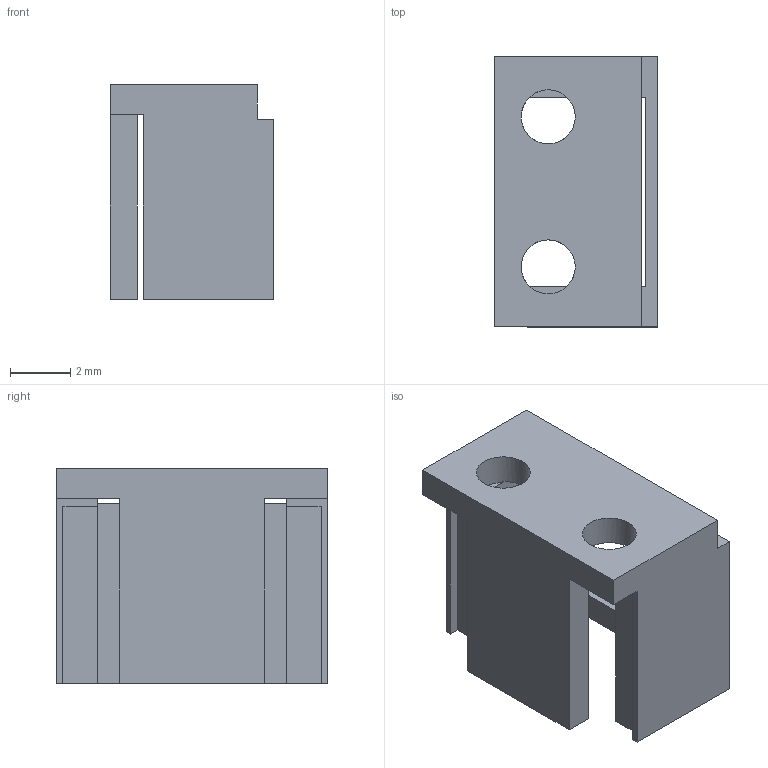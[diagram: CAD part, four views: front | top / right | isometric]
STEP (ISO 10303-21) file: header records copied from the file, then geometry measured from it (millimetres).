
FILE_DESCRIPTION(/* description */ (''),/* implementation_level */ '2;1');
FILE_NAME(/* name */ 'C28_R3_Volume_Up_Removable_Switch_Cradle.step',/* time_stamp */ '2026-09-10T17:49:56-07:00',/* author */ (''),/* organization */ (''),/* preprocessor_version */ 'ST-DEVELOPER v20.1',/* originating_system */ 'Autodesk Translation Framework v15.8.0.0',/* authorisation */ '');
FILE_SCHEMA (('AUTOMOTIVE_DESIGN { 1 0 10303 214 3 1 1 }'));
Length unit declared in the file: millimetre
Products named in the file (1): 2026-09-10-17-49-56-131
Bounding box: 5.45 x 9 x 7.15 mm (x, y, z)
Volume: 140.9 mm3; surface area: 378.3 mm2
Topology: 1 solids, 1 shells, 32 faces, 102 edges, 68 vertices
Faces by surface type: plane 30, cylinder 2
Full cylindrical faces by diameter (mm): 1.8 x2
Entity records: 1163 total; most frequent: ORIENTED_EDGE 204, CARTESIAN_POINT 203, DIRECTION 176, EDGE_CURVE 102, LINE 94, VECTOR 94, VERTEX_POINT 68, AXIS2_PLACEMENT_3D 41
